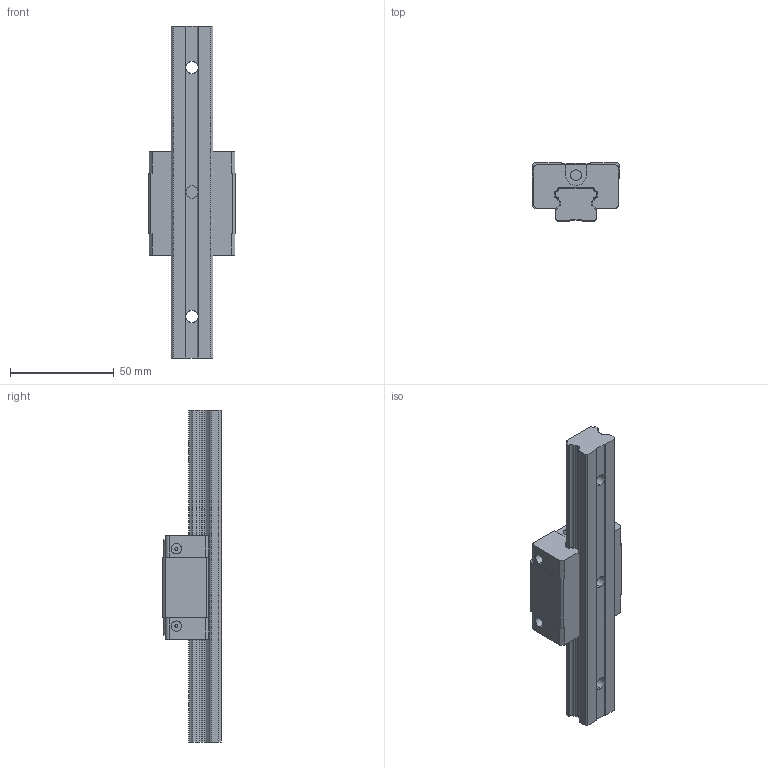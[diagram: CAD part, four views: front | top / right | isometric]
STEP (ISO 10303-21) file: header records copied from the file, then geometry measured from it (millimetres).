
FILE_DESCRIPTION((''),'2;1');
FILE_NAME('QEH20SA_ASM','2008-07-11T',('brianyu'),(''),'PRO/ENGINEER BY PARAMETRIC TECHNOLOGY CORPORATION, 2004360','PRO/ENGINEER BY PARAMETRIC TECHNOLOGY CORPORATION, 2004360','');
FILE_SCHEMA(('CONFIG_CONTROL_DESIGN'));
Length unit declared in the file: millimetre
Products named in the file (4): QEH20SA_BLOCK; PRT0001; QEH20SA_ASM_ASM; QEH20SA_ASM
Assembly tree (3 placements, depth 3):
  QEH20SA_ASM
    QEH20SA_ASM_ASM
      QEH20SA_BLOCK
      PRT0001
Bounding box: 42 x 28 x 160 mm (x, y, z)
Volume: 77466.8 mm3; surface area: 23056.3 mm2
Topology: 2 solids, 2 shells, 254 faces, 717 edges, 483 vertices
Faces by surface type: plane 132, cylinder 105, extrusion 17
Entity records: 8619 total; most frequent: CARTESIAN_POINT 1741, ORIENTED_EDGE 1434, DIRECTION 1404, EDGE_CURVE 717, VECTOR 484, VERTEX_POINT 483, LINE 467, AXIS2_PLACEMENT_3D 460
